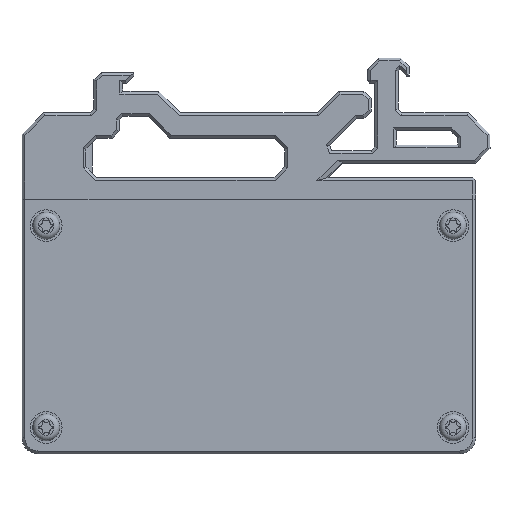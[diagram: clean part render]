
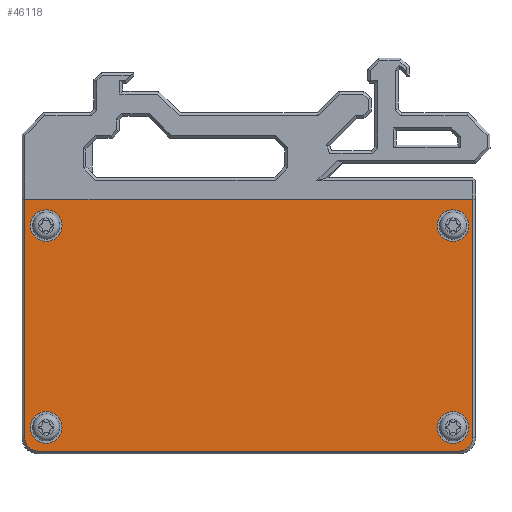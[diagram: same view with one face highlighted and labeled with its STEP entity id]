
A CAD part, front view. The second image highlights one B-rep face of the part: STEP entity #46118.
In plain terms, the highlighted planar face has unit normal (0, -1, 0) as drawn and (0, 1, 0) by its records, which use the part's own axes.
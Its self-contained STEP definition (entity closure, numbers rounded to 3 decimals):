
#1360=FACE_BOUND('',#16069,.T.);
#1361=FACE_BOUND('',#16070,.T.);
#1362=FACE_BOUND('',#16071,.T.);
#1363=FACE_BOUND('',#16072,.T.);
#3443=LINE('',#66640,#8814);
#3446=LINE('',#66651,#8817);
#3450=LINE('',#66663,#8821);
#3461=LINE('',#66687,#8832);
#8814=VECTOR('',#54885,10.);
#8817=VECTOR('',#54896,10.);
#8821=VECTOR('',#54908,10.);
#8832=VECTOR('',#54933,10.);
#13400=FACE_OUTER_BOUND('',#16068,.T.);
#16068=EDGE_LOOP('',(#33763,#33764,#33765,#33766,#33767,#33768));
#16069=EDGE_LOOP('',(#33769));
#16070=EDGE_LOOP('',(#33770));
#16071=EDGE_LOOP('',(#33771));
#16072=EDGE_LOOP('',(#33772));
#18360=CIRCLE('',#49137,2.2);
#18365=CIRCLE('',#49145,2.2);
#18367=CIRCLE('',#49149,1.85);
#18369=CIRCLE('',#49153,1.85);
#18372=CIRCLE('',#49164,2.2);
#18373=CIRCLE('',#49165,2.2);
#20032=VERTEX_POINT('',#66613);
#20037=VERTEX_POINT('',#66629);
#20038=VERTEX_POINT('',#66633);
#20041=VERTEX_POINT('',#66638);
#20043=VERTEX_POINT('',#66644);
#20045=VERTEX_POINT('',#66649);
#20047=VERTEX_POINT('',#66656);
#20049=VERTEX_POINT('',#66661);
#20056=VERTEX_POINT('',#66691);
#20057=VERTEX_POINT('',#66693);
#25102=EDGE_CURVE('',#20032,#20032,#18360,.T.);
#25110=EDGE_CURVE('',#20037,#20037,#18365,.T.);
#25115=EDGE_CURVE('',#20041,#20038,#3443,.T.);
#25118=EDGE_CURVE('',#20043,#20041,#18367,.T.);
#25120=EDGE_CURVE('',#20045,#20043,#3446,.T.);
#25124=EDGE_CURVE('',#20047,#20045,#18369,.T.);
#25126=EDGE_CURVE('',#20049,#20047,#3450,.T.);
#25139=EDGE_CURVE('',#20049,#20038,#3461,.T.);
#25141=EDGE_CURVE('',#20056,#20056,#18372,.T.);
#25142=EDGE_CURVE('',#20057,#20057,#18373,.T.);
#33763=ORIENTED_EDGE('',*,*,#25126,.F.);
#33764=ORIENTED_EDGE('',*,*,#25139,.T.);
#33765=ORIENTED_EDGE('',*,*,#25115,.F.);
#33766=ORIENTED_EDGE('',*,*,#25118,.F.);
#33767=ORIENTED_EDGE('',*,*,#25120,.F.);
#33768=ORIENTED_EDGE('',*,*,#25124,.F.);
#33769=ORIENTED_EDGE('',*,*,#25102,.T.);
#33770=ORIENTED_EDGE('',*,*,#25110,.T.);
#33771=ORIENTED_EDGE('',*,*,#25141,.T.);
#33772=ORIENTED_EDGE('',*,*,#25142,.T.);
#44070=PLANE('',#49163);
#46118=ADVANCED_FACE('',(#13400,#1360,#1361,#1362,#1363),#44070,.T.);
#49137=AXIS2_PLACEMENT_3D('',#66614,#54858,#54859);
#49145=AXIS2_PLACEMENT_3D('',#66630,#54877,#54878);
#49149=AXIS2_PLACEMENT_3D('',#66646,#54891,#54892);
#49153=AXIS2_PLACEMENT_3D('',#66658,#54903,#54904);
#49163=AXIS2_PLACEMENT_3D('',#66690,#54937,#54938);
#49164=AXIS2_PLACEMENT_3D('',#66692,#54939,#54940);
#49165=AXIS2_PLACEMENT_3D('',#66694,#54941,#54942);
#54858=DIRECTION('center_axis',(0.,-1.,0.));
#54859=DIRECTION('ref_axis',(0.,0.,
1.));
#54877=DIRECTION('center_axis',(0.,-1.,0.));
#54878=DIRECTION('ref_axis',(0.,0.,
1.));
#54885=DIRECTION('',(0.,0.,-1.));
#54891=DIRECTION('center_axis',(0.,-1.,0.));
#54892=DIRECTION('ref_axis',(-0.707,0.,0.707));
#54896=DIRECTION('',(-1.,0.,0.));
#54903=DIRECTION('center_axis',(0.,-1.,0.));
#54904=DIRECTION('ref_axis',(0.707,0.,0.707));
#54908=DIRECTION('',(0.,0.,1.));
#54933=DIRECTION('',(-1.,0.,0.));
#54937=DIRECTION('center_axis',(0.,1.,0.));
#54938=DIRECTION('ref_axis',(-1.,0.,0.));
#54939=DIRECTION('center_axis',(0.,-1.,0.));
#54940=DIRECTION('ref_axis',(0.,0.,
1.));
#54941=DIRECTION('center_axis',(0.,-1.,0.));
#54942=DIRECTION('ref_axis',(0.,0.,
1.));
#66613=CARTESIAN_POINT('',(54.06,-279.426,-10.167));
#66614=CARTESIAN_POINT('Origin',(54.06,-279.426,-7.967));
#66629=CARTESIAN_POINT('',(110.56,-279.426,-10.167));
#66630=CARTESIAN_POINT('Origin',(110.56,-279.426,-7.967));
#66633=CARTESIAN_POINT('',(51.104,-279.426,-11.65));
#66638=CARTESIAN_POINT('',(51.104,-279.426,21.487));
#66640=CARTESIAN_POINT('',(51.104,-279.426,-11.65));
#66644=CARTESIAN_POINT('',(52.954,-279.426,23.337));
#66646=CARTESIAN_POINT('Origin',(52.954,-279.426,21.487));
#66649=CARTESIAN_POINT('',(111.454,-279.426,23.337));
#66651=CARTESIAN_POINT('',(86.204,-279.426,23.337));
#66656=CARTESIAN_POINT('',(113.304,-279.426,21.487));
#66658=CARTESIAN_POINT('Origin',(111.454,-279.426,21.487));
#66661=CARTESIAN_POINT('',(113.304,-279.426,-11.65));
#66663=CARTESIAN_POINT('',(113.304,-279.426,-11.65));
#66687=CARTESIAN_POINT('',(71.454,-279.426,-11.65));
#66690=CARTESIAN_POINT('Origin',(111.704,-279.426,-11.65));
#66691=CARTESIAN_POINT('',(54.06,-279.426,17.854));
#66692=CARTESIAN_POINT('Origin',(54.06,-279.426,20.054));
#66693=CARTESIAN_POINT('',(110.56,-279.426,17.854));
#66694=CARTESIAN_POINT('Origin',(110.56,-279.426,20.054));
